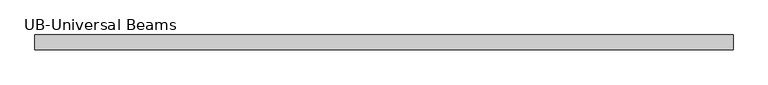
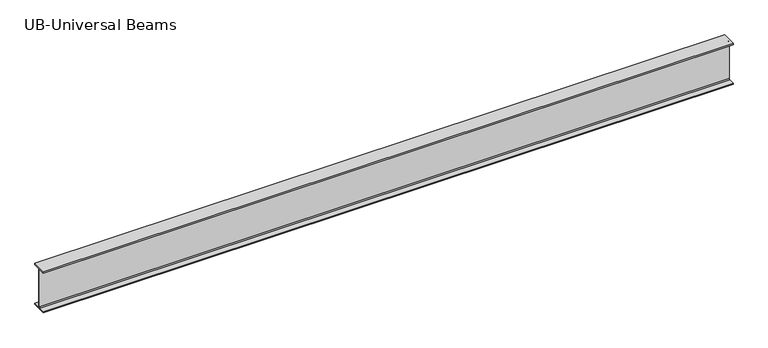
"""IFC4 building model written with IfcOpenShell, lengths in millimetres: beam geometry."""

import ifcopenshell
import ifcopenshell.guid

model = None  # the IFC model being written
_history = None  # IfcOwnerHistory: only IFC2X3 demands one
_inside = {}  # id of a spatial element -> (the spatial element, [elements in it])
_under = {}  # id of a project, library or spatial element -> (it, [spatial elements below it])
_declared = {}  # id of a project -> (the project, [libraries it declares])
_typed = {}  # id of a type object -> (the type object, [elements of that type])
_made_of = {}  # id of a material, layer set ... -> (it, [elements and type objects made of it])


def new_model(schema):
    """Start an empty IFC model of exactly this schema.

    Asked for "IFC4X3", IfcOpenShell would pick the latest addendum, in which some entities
    have other attributes; the version numbers below select the first issue.
    IFC2X3 requires an IfcOwnerHistory on every rooted entity: one is made here for all.
    """
    global model, _history
    if schema == "IFC4X3":
        model = ifcopenshell.file(schema_version=(4, 3, 0, 0))
    else:
        model = ifcopenshell.file(schema=schema)
    _inside.clear()
    _under.clear()
    _declared.clear()
    _typed.clear()
    _made_of.clear()
    _history = None
    if model.schema == "IFC2X3":
        org = make("IfcOrganization", Name="unknown")
        user = make(
            "IfcPersonAndOrganization",
            ThePerson=make("IfcPerson", FamilyName="unknown"),
            TheOrganization=org,
        )
        app = make(
            "IfcApplication",
            ApplicationDeveloper=org,
            Version="unknown",
            ApplicationFullName="unknown",
            ApplicationIdentifier="unknown",
        )
        _history = make(
            "IfcOwnerHistory",
            OwningUser=user,
            OwningApplication=app,
            ChangeAction="ADDED",
            CreationDate=0,
        )
    return model


def make(cls, **values):
    """One entity of the class cls with the attributes given. An attribute that is None is left unset."""
    return model.create_entity(
        cls, **{name: value for name, value in values.items() if value is not None}
    )


def rooted(cls, **values):
    """An entity with a GlobalId (a new one), such as an element, a storey or a relation."""
    return make(cls, GlobalId=ifcopenshell.guid.new(), OwnerHistory=_history, **values)


def si_unit(unit_type, name, prefix=None):
    """IfcSIUnit, for example si_unit("LENGTHUNIT", "METRE", prefix="MILLI")."""
    return make("IfcSIUnit", UnitType=unit_type, Prefix=prefix, Name=name)


def assignment(units):
    """IfcUnitAssignment: the units of a project."""
    return None if units is None else make("IfcUnitAssignment", Units=units)


def point(xyz):
    """IfcCartesianPoint."""
    return None if xyz is None else make("IfcCartesianPoint", Coordinates=xyz)


def direction(xyz):
    """IfcDirection."""
    return None if xyz is None else make("IfcDirection", DirectionRatios=xyz)


def frame(location, z_axis=None, x_axis=None):
    """IfcAxis2Placement3D, a coordinate frame: its origin and axes. An axis left out is left unset."""
    return make(
        "IfcAxis2Placement3D",
        Location=point(location),
        Axis=direction(z_axis),
        RefDirection=direction(x_axis),
    )


def frame_2d(location, x_axis=None):
    """IfcAxis2Placement2D, a coordinate frame in the plane: its origin and x axis."""
    return make(
        "IfcAxis2Placement2D", Location=point(location), RefDirection=direction(x_axis)
    )


def origin():
    """The frame at (0, 0, 0) with its axes left unset."""
    return frame((0.0, 0.0, 0.0))


def place(relative_to, where):
    """IfcLocalPlacement: puts the frame where relative to a parent placement (None: the world)."""
    return make(
        "IfcLocalPlacement", PlacementRelTo=relative_to, RelativePlacement=where
    )


def context(
    kind, dimensions, precision=None, world=None, true_north=None, identifier=None
):
    """IfcGeometricRepresentationContext, for example the 3D "Model" context."""
    return make(
        "IfcGeometricRepresentationContext",
        ContextIdentifier=identifier,
        ContextType=kind,
        CoordinateSpaceDimension=dimensions,
        Precision=precision,
        WorldCoordinateSystem=world,
        TrueNorth=true_north,
    )


def project(units=None, contexts=None):
    """IfcProject with its units and contexts."""
    return rooted(
        "IfcProject",
        Name="project",
        RepresentationContexts=contexts,
        UnitsInContext=assignment(units),
    )


def spatial(cls, under=None, at=None, **own):
    """A site, building, storey or space (cls), placed at a placement, below another one or the project."""
    s = rooted(cls, ObjectPlacement=at, **own)
    if under is not None:
        _under.setdefault(under.id(), (under, []))[1].append(s)
    return s


def polyline(points):
    """IfcPolyline through the points."""
    return make("IfcPolyline", Points=[point(p) for p in points])


def circle_curve(where, radius):
    """IfcCircle in the frame where."""
    return make("IfcCircle", Position=where, Radius=radius)


def trimmed(basis, trim1, trim2, sense, master):
    """IfcTrimmedCurve: the piece of a basis curve between two trims."""
    return make(
        "IfcTrimmedCurve",
        BasisCurve=basis,
        Trim1=trim1,
        Trim2=trim2,
        SenseAgreement=sense,
        MasterRepresentation=master,
    )


def segment(curve, same_sense, transition):
    """IfcCompositeCurveSegment."""
    return make(
        "IfcCompositeCurveSegment",
        Transition=transition,
        SameSense=same_sense,
        ParentCurve=curve,
    )


def composite_curve(segments, self_intersect=None):
    """IfcCompositeCurve: segments joined end to end."""
    return make("IfcCompositeCurve", Segments=segments, SelfIntersect=self_intersect)


def outline(outer, holes=None, kind="AREA"):
    """IfcArbitraryClosedProfileDef: a profile drawn as a closed curve; with holes, ...WithVoids."""
    if holes is None:
        return make("IfcArbitraryClosedProfileDef", ProfileType=kind, OuterCurve=outer)
    return make(
        "IfcArbitraryProfileDefWithVoids",
        ProfileType=kind,
        OuterCurve=outer,
        InnerCurves=holes,
    )


def extrude(swept, where, along, depth):
    """IfcExtrudedAreaSolid: the profile swept, set in the frame where, extruded along a direction by depth."""
    return make(
        "IfcExtrudedAreaSolid",
        SweptArea=swept,
        Position=where,
        ExtrudedDirection=direction(along),
        Depth=depth,
    )


def shape(context_of_items, identifier, shape_type, items):
    """IfcShapeRepresentation: the items that make up one representation, for example the "Body"."""
    return make(
        "IfcShapeRepresentation",
        ContextOfItems=context_of_items,
        RepresentationIdentifier=identifier,
        RepresentationType=shape_type,
        Items=items,
    )


def source(mapping_origin, context_of_items, identifier, shape_type, items):
    """IfcRepresentationMap: a shape defined once, which mapped items show again and again."""
    return make(
        "IfcRepresentationMap",
        MappingOrigin=mapping_origin,
        MappedRepresentation=shape(context_of_items, identifier, shape_type, items),
    )


def transform(
    local_origin,
    x_axis=None,
    y_axis=None,
    z_axis=None,
    scale=None,
    scale2=None,
    scale3=None,
    uniform=True,
):
    """IfcCartesianTransformationOperator3D, or its non-uniform kind. x_axis, y_axis, z_axis: its Axis1, 2, 3."""
    if uniform:
        return make(
            "IfcCartesianTransformationOperator3D",
            Axis1=direction(x_axis),
            Axis2=direction(y_axis),
            LocalOrigin=point(local_origin),
            Scale=scale,
            Axis3=direction(z_axis),
        )
    return make(
        "IfcCartesianTransformationOperator3DnonUniform",
        Axis1=direction(x_axis),
        Axis2=direction(y_axis),
        LocalOrigin=point(local_origin),
        Scale=scale,
        Axis3=direction(z_axis),
        Scale2=scale2,
        Scale3=scale3,
    )


def mapped(mapping_source, mapping_target):
    """IfcMappedItem: shows the shape of a source again, moved by a transform."""
    return make(
        "IfcMappedItem", MappingSource=mapping_source, MappingTarget=mapping_target
    )


def made_of(thing, what):
    """Note that an element or type object is made of a material, layer set ...; save() writes the relation."""
    if what is not None:
        _made_of.setdefault(what.id(), (what, []))[1].append(thing)
    return thing


def element(
    cls,
    number,
    at=None,
    inside=None,
    cuts=None,
    type_object=None,
    material=None,
    context=None,
    identifier="Body",
    shape_type=None,
    held_by="IfcProductDefinitionShape",
    body=None,
    shapes=None,
    **own,
):
    """One element of the class cls, such as IfcWall. Its Tag is "e" and its number.

    at: its placement. inside: the storey or other place that contains it. cuts: it is an
    opening in that element (IfcRelVoidsElement). A single representation is given by context,
    identifier, shape_type and body (its items); several are given by shapes. held_by: the class
    of the entity that holds the representations. save() writes the other relations.
    """
    e = rooted(cls, Tag="e%d" % number, ObjectPlacement=at, **own)
    if body is not None:
        shapes = [shape(context, identifier, shape_type, body)]
    if shapes is not None:
        e.Representation = make(held_by, Representations=shapes)
    if inside is not None:
        _inside.setdefault(inside.id(), (inside, []))[1].append(e)
    if cuts is not None:
        rooted(
            "IfcRelVoidsElement", RelatingBuildingElement=cuts, RelatedOpeningElement=e
        )
    if type_object is not None:
        _typed.setdefault(type_object.id(), (type_object, []))[1].append(e)
    return made_of(e, material)


def aggregate(whole, parts):
    """IfcRelAggregates: a whole, such as a stair, and the parts it consists of."""
    return rooted("IfcRelAggregates", RelatingObject=whole, RelatedObjects=parts)


def save(model, path):
    """Write the relations noted so far, then the file.

    IfcRelAggregates (storeys below a building ...), IfcRelContainedInSpatialStructure (elements
    in a storey), IfcRelDefinesByType, IfcRelAssociatesMaterial and IfcRelDeclares: one each for
    every whole, place, type object, material and project.
    """
    for whole, parts in _under.values():
        aggregate(whole, parts)
    for where, things in _inside.values():
        rooted(
            "IfcRelContainedInSpatialStructure",
            RelatedElements=things,
            RelatingStructure=where,
        )
    for kind, things in _typed.values():
        rooted("IfcRelDefinesByType", RelatedObjects=things, RelatingType=kind)
    for what, things in _made_of.values():
        rooted("IfcRelAssociatesMaterial", RelatedObjects=things, RelatingMaterial=what)
    for by, libraries in _declared.values():
        rooted("IfcRelDeclares", RelatingContext=by, RelatedDefinitions=libraries)
    model.write(path)


def ub_universal_beams_f5dc209c(model_context):
    return source(origin(), model_context, "Body", "SweptSolid", [
        extrude(outline(composite_curve([segment(polyline([(76.9, -214.0), (76.9, -229.0), (-76.9, -229.0), (-76.9, -214.0), (-14.7, -214.0)]), True, "CONTINUOUS"), segment(trimmed(circle_curve(frame_2d((-14.7, -203.8)), 10.2), [point((-14.7, -214.0))], [point((-4.5, -203.8))], True, "CARTESIAN"), True, "CONTINUOUS"), segment(polyline([(-4.5, -203.8), (-4.5, 203.8)]), True, "CONTINUOUS"), segment(trimmed(circle_curve(frame_2d((-14.7, 203.8)), 10.2), [point((-4.5, 203.8))], [point((-14.7, 214.0))], True, "CARTESIAN"), True, "CONTINUOUS"), segment(polyline([(-14.7, 214.0), (-76.9, 214.0), (-76.9, 229.0), (76.9, 229.0), (76.9, 214.0), (14.7, 214.0)]), True, "CONTINUOUS"), segment(trimmed(circle_curve(frame_2d((14.7, 203.8)), 10.2), [point((14.7, 214.0))], [point((4.5, 203.8))], True, "CARTESIAN"), True, "CONTINUOUS"), segment(polyline([(4.5, 203.8), (4.5, -203.8)]), True, "CONTINUOUS"), segment(trimmed(circle_curve(frame_2d((14.7, -203.8)), 10.2), [point((4.5, -203.8))], [point((14.7, -214.0))], True, "CARTESIAN"), True, "CONTINUOUS"), segment(polyline([(14.7, -214.0), (76.9, -214.0)]), True, "CONTINUOUS")], self_intersect=False)), frame((-3629.4, 0.0, 0.0), z_axis=(1.0, 0.0, 0.0), x_axis=(0.0, 1.0, 0.0)), (0.0, 0.0, 1.0), 7258.8),
    ])


if __name__ == "__main__":
    model = new_model("IFC4")
    model_context = context("Model", 3, world=origin())
    ifc_project = project(units=[si_unit("LENGTHUNIT", "METRE", prefix="MILLI")], contexts=[model_context])
    site = spatial("IfcSite", under=ifc_project)
    building = spatial("IfcBuilding", under=site)
    placement = place(None, origin())
    ub_universal_beams_shape = ub_universal_beams_f5dc209c(model_context)
    element("IfcBeam", 1, ObjectType="UB-Universal Beams : UB 18\" x 6\" x 2 1/2\"", at=placement, inside=building, context=model_context, shape_type="MappedRepresentation", body=[
        mapped(ub_universal_beams_shape, transform((0.0, 0.0, 0.0), x_axis=(1.0, 0.0, 0.0), y_axis=(0.0, 1.0, 0.0), z_axis=(0.0, 0.0, 1.0))),
    ])
    save(model, "model.ifc")
